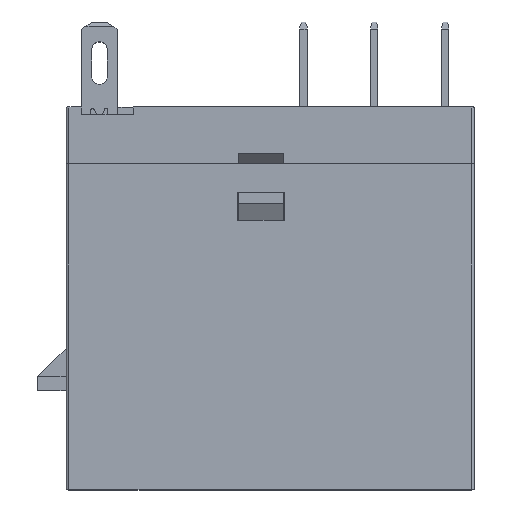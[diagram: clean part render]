
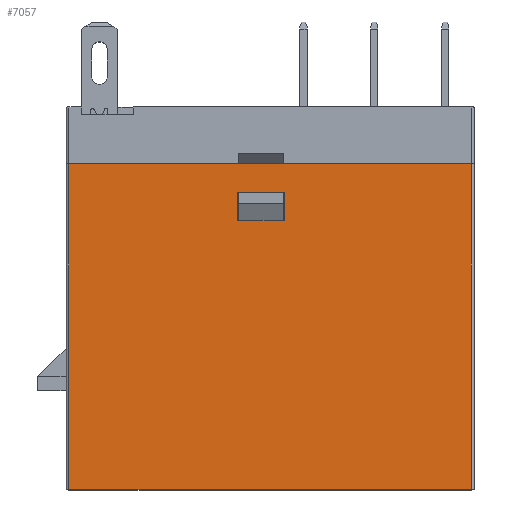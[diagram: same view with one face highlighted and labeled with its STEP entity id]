
A CAD part, top view. The second image highlights one B-rep face of the part: STEP entity #7057.
In plain terms, the highlighted planar face has unit normal (0, 0, 1) as drawn and (0, 0, -1) by its records, which use the part's own axes.
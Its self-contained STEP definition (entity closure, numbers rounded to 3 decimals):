
#3088 = CARTESIAN_POINT ( 'NONE',  ( 0., 22.3, -6.35 ) ) ;
#3410 = CARTESIAN_POINT ( 'NONE',  ( 14.2, 0., -6.35 ) ) ;
#3540 = ORIENTED_EDGE ( 'NONE', *, *, #50354, .T. ) ;
#3686 = EDGE_LOOP ( 'NONE', ( #29971, #36536, #12918, #37081 ) ) ;
#6540 = VERTEX_POINT ( 'NONE', #10133 ) ;
#7057 = ADVANCED_FACE ( 'NONE', ( #26697, #46166 ), #38194, .F. ) ;
#7208 = CARTESIAN_POINT ( 'NONE',  ( -2.3, 4., -6.35 ) ) ;
#7872 = EDGE_CURVE ( 'NONE', #15927, #35991, #22083, .T. ) ;
#9151 = VECTOR ( 'NONE', #35196, 1000. ) ;
#9160 = VERTEX_POINT ( 'NONE', #7208 ) ;
#10133 = CARTESIAN_POINT ( 'NONE',  ( -14.2, 0., -6.35 ) ) ;
#10489 = LINE ( 'NONE', #16432, #30065 ) ;
#11075 = AXIS2_PLACEMENT_3D ( 'NONE', #3088, #15064, #42280 ) ;
#11974 = CARTESIAN_POINT ( 'NONE',  ( -2.3, 4., -6.35 ) ) ;
#12597 = EDGE_CURVE ( 'NONE', #9160, #22864, #21610, .T. ) ;
#12918 = ORIENTED_EDGE ( 'NONE', *, *, #16956, .F. ) ;
#13596 = LINE ( 'NONE', #16921, #43408 ) ;
#13957 = EDGE_CURVE ( 'NONE', #22864, #50168, #10489, .T. ) ;
#14811 = CARTESIAN_POINT ( 'NONE',  ( -14.4, 23., -6.35 ) ) ;
#14885 = VECTOR ( 'NONE', #48958, 1000. ) ;
#15064 = DIRECTION ( 'NONE',  ( 0., 0., 1. ) ) ;
#15503 = CARTESIAN_POINT ( 'NONE',  ( 14.2, 22.3, -6.35 ) ) ;
#15811 = CARTESIAN_POINT ( 'NONE',  ( -2.3, 2., -6.35 ) ) ;
#15927 = VERTEX_POINT ( 'NONE', #47331 ) ;
#16432 = CARTESIAN_POINT ( 'NONE',  ( 1., 4., -6.35 ) ) ;
#16921 = CARTESIAN_POINT ( 'NONE',  ( 1., 2., -6.35 ) ) ;
#16956 = EDGE_CURVE ( 'NONE', #24092, #9160, #20703, .T. ) ;
#17852 = CARTESIAN_POINT ( 'NONE',  ( -14.2, 22.3, -6.35 ) ) ;
#18528 = LINE ( 'NONE', #15503, #30121 ) ;
#19661 = VECTOR ( 'NONE', #45940, 1000. ) ;
#20060 = ORIENTED_EDGE ( 'NONE', *, *, #27331, .T. ) ;
#20161 = ORIENTED_EDGE ( 'NONE', *, *, #35949, .T. ) ;
#20366 = DIRECTION ( 'NONE',  ( 0., -1., 0. ) ) ;
#20703 = LINE ( 'NONE', #11974, #9151 ) ;
#21016 = DIRECTION ( 'NONE',  ( -1., 0., 0. ) ) ;
#21610 = LINE ( 'NONE', #41387, #29508 ) ;
#22083 = LINE ( 'NONE', #14811, #19661 ) ;
#22864 = VERTEX_POINT ( 'NONE', #47394 ) ;
#23580 = LINE ( 'NONE', #44523, #32720 ) ;
#24092 = VERTEX_POINT ( 'NONE', #15811 ) ;
#25145 = EDGE_LOOP ( 'NONE', ( #31507, #20161, #20060, #3540 ) ) ;
#26462 = LINE ( 'NONE', #17852, #14885 ) ;
#26697 = FACE_BOUND ( 'NONE', #3686, .T. ) ;
#27331 = EDGE_CURVE ( 'NONE', #33053, #6540, #23580, .T. ) ;
#29508 = VECTOR ( 'NONE', #45295, 1000. ) ;
#29971 = ORIENTED_EDGE ( 'NONE', *, *, #13957, .F. ) ;
#30065 = VECTOR ( 'NONE', #20366, 1000. ) ;
#30121 = VECTOR ( 'NONE', #35090, 1000. ) ;
#31507 = ORIENTED_EDGE ( 'NONE', *, *, #7872, .F. ) ;
#32187 = CARTESIAN_POINT ( 'NONE',  ( 1., 2., -6.35 ) ) ;
#32720 = VECTOR ( 'NONE', #48444, 1000. ) ;
#33053 = VERTEX_POINT ( 'NONE', #3410 ) ;
#35090 = DIRECTION ( 'NONE',  ( 0., -1., 0. ) ) ;
#35196 = DIRECTION ( 'NONE',  ( 0., 1., 0. ) ) ;
#35427 = CARTESIAN_POINT ( 'NONE',  ( -14.2, 23., -6.35 ) ) ;
#35949 = EDGE_CURVE ( 'NONE', #15927, #33053, #18528, .T. ) ;
#35991 = VERTEX_POINT ( 'NONE', #35427 ) ;
#36536 = ORIENTED_EDGE ( 'NONE', *, *, #12597, .F. ) ;
#37081 = ORIENTED_EDGE ( 'NONE', *, *, #47370, .F. ) ;
#38194 = PLANE ( 'NONE',  #11075 ) ;
#41387 = CARTESIAN_POINT ( 'NONE',  ( -2.3, 4., -6.35 ) ) ;
#42280 = DIRECTION ( 'NONE',  ( 1., 0., 0. ) ) ;
#43408 = VECTOR ( 'NONE', #21016, 1000. ) ;
#44523 = CARTESIAN_POINT ( 'NONE',  ( 0., 0., -6.35 ) ) ;
#45295 = DIRECTION ( 'NONE',  ( 1., 0., 0. ) ) ;
#45940 = DIRECTION ( 'NONE',  ( -1., 0., 0. ) ) ;
#46166 = FACE_OUTER_BOUND ( 'NONE', #25145, .T. ) ;
#47331 = CARTESIAN_POINT ( 'NONE',  ( 14.2, 23., -6.35 ) ) ;
#47370 = EDGE_CURVE ( 'NONE', #50168, #24092, #13596, .T. ) ;
#47394 = CARTESIAN_POINT ( 'NONE',  ( 1., 4., -6.35 ) ) ;
#48444 = DIRECTION ( 'NONE',  ( -1., 0., 0. ) ) ;
#48958 = DIRECTION ( 'NONE',  ( 0., 1., 0. ) ) ;
#50168 = VERTEX_POINT ( 'NONE', #32187 ) ;
#50354 = EDGE_CURVE ( 'NONE', #6540, #35991, #26462, .T. ) ;
